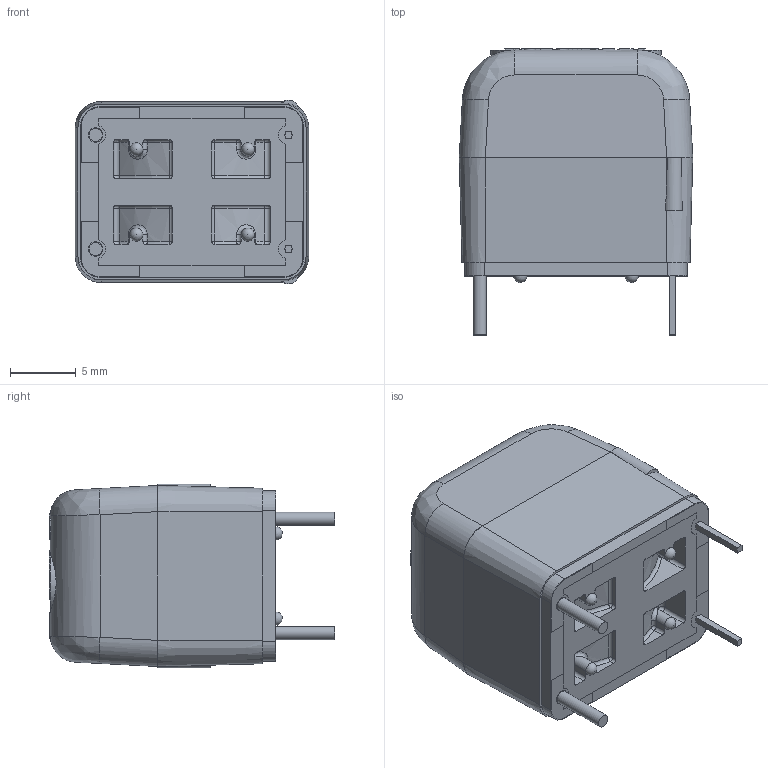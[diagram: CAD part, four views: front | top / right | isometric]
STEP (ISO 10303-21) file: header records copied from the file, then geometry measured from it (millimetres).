
FILE_DESCRIPTION(/* description */ (''),/* implementation_level */ '2;1');
FILE_NAME(/* name */ 'W60000-B4406-C271-00-7406_Asembly_Vereinfachen_1.stp',/* time_stamp */ '2024-07-01T10:47:49+02:00',/* author */ ('de011266'),/* organization */ (''),/* preprocessor_version */ 'ST-DEVELOPER v19.2',/* originating_system */ 'Autodesk Inventor 2024',/* authorisation */ '');
FILE_SCHEMA (('AUTOMOTIVE_DESIGN { 1 0 10303 214 3 1 1 }'));
Length unit declared in the file: millimetre
Products named in the file (1): W60000-B4406-C271-00-7406_Asembly_Vereinfachen_1
Bounding box: 17.8 x 21.8 x 14 mm (x, y, z)
Volume: 3834.4 mm3; surface area: 1542.4 mm2
Topology: 1 solids, 1 shells, 466 faces, 1323 edges, 872 vertices
Faces by surface type: plane 236, bspline 122, cylinder 70, sphere 20, torus 12, cone 6
Full cylindrical faces by diameter (mm): 1 x2
Entity records: 16819 total; most frequent: CARTESIAN_POINT 4773, ORIENTED_EDGE 2638, DIRECTION 2027, EDGE_CURVE 1319, VERTEX_POINT 872, LINE 819, VECTOR 819, AXIS2_PLACEMENT_3D 604
